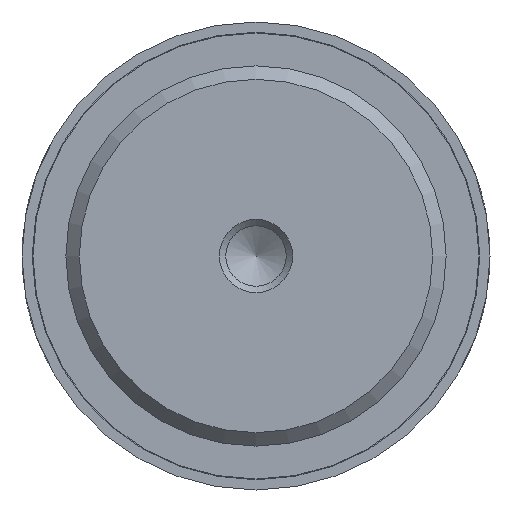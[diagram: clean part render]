
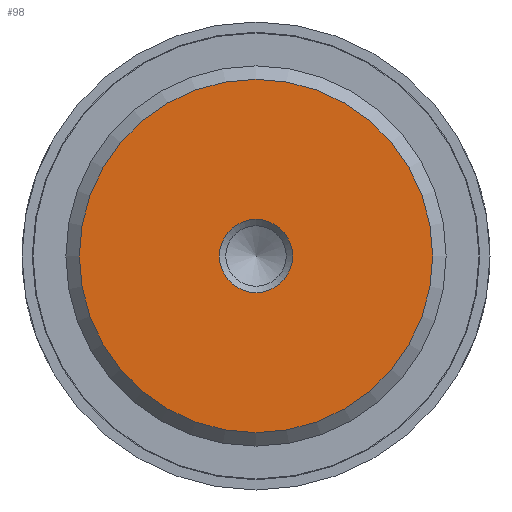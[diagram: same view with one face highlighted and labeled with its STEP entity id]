
A CAD part, front view. The second image highlights one B-rep face of the part: STEP entity #98.
In plain terms, the highlighted planar face has unit normal (0, -1, 0).
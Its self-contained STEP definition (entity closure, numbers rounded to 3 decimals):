
#98 = ADVANCED_FACE( '', ( #166, #167 ), #168, .F. );
#166 = FACE_BOUND( '', #245, .T. );
#167 = FACE_OUTER_BOUND( '', #246, .T. );
#168 = PLANE( '', #247 );
#245 = EDGE_LOOP( '', ( #408 ) );
#246 = EDGE_LOOP( '', ( #409 ) );
#247 = AXIS2_PLACEMENT_3D( '', #410, #411, #412 );
#408 = ORIENTED_EDGE( '', *, *, #474, .F. );
#409 = ORIENTED_EDGE( '', *, *, #478, .T. );
#410 = CARTESIAN_POINT( '', ( 12.08, 0., 0. ) );
#411 = DIRECTION( '', ( 0., 1., 0. ) );
#412 = DIRECTION( '', ( 0., 0., 1. ) );
#474 = EDGE_CURVE( '', #545, #545, #546, .T. );
#478 = EDGE_CURVE( '', #551, #551, #552, .T. );
#545 = VERTEX_POINT( '', #773 );
#546 = CIRCLE( '', #774, 2.5 );
#551 = VERTEX_POINT( '', #779 );
#552 = CIRCLE( '', #780, 12.08 );
#773 = CARTESIAN_POINT( '', ( 2.5, 0., 0. ) );
#774 = AXIS2_PLACEMENT_3D( '', #854, #855, #856 );
#779 = CARTESIAN_POINT( '', ( 0., 0., -12.08 ) );
#780 = AXIS2_PLACEMENT_3D( '', #863, #864, #865 );
#854 = CARTESIAN_POINT( '', ( 0., 0., 0. ) );
#855 = DIRECTION( '', ( 0., -1., 0. ) );
#856 = DIRECTION( '', ( 1., 0., 0. ) );
#863 = CARTESIAN_POINT( '', ( 0., 0., 0. ) );
#864 = DIRECTION( '', ( 0., -1., 0. ) );
#865 = DIRECTION( '', ( 0., 0., -1. ) );
